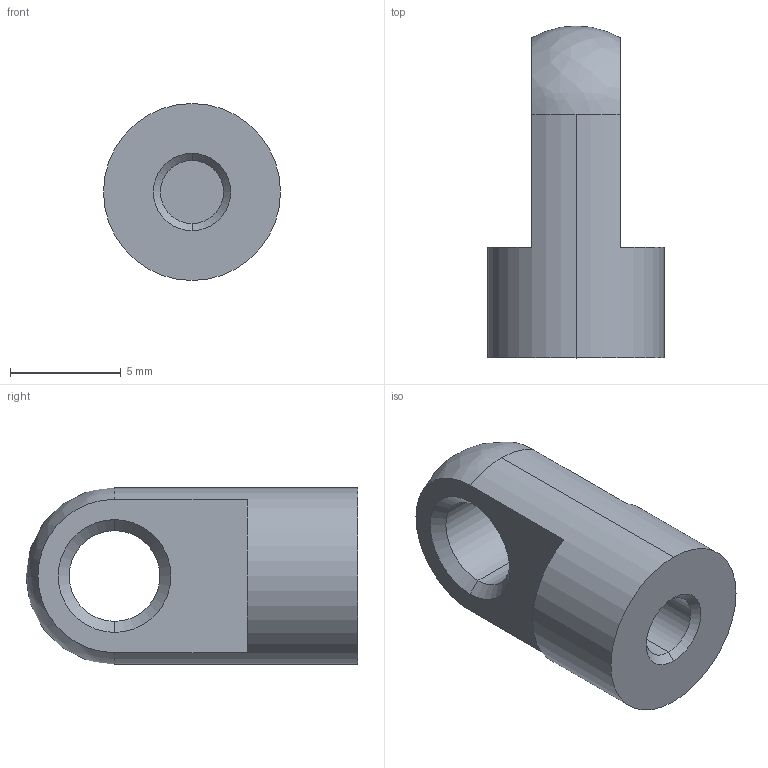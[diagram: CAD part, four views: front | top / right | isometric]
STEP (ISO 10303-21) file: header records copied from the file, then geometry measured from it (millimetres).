
FILE_DESCRIPTION (( 'STEP AP214' ), '1' );
FILE_NAME ('18.SM02.STEP', '2017-10-21T09:22:43', ( '' ), ( '' ), 'SwSTEP 2.0', 'SolidWorks 2016', '' );
FILE_SCHEMA (( 'AUTOMOTIVE_DESIGN' ));
Length unit declared in the file: millimetre
Products named in the file (1): 18.SM02
Bounding box: 8 x 15 x 8 mm (x, y, z)
Volume: 432.1 mm3; surface area: 487.3 mm2
Topology: 1 solids, 1 shells, 20 faces, 45 edges, 28 vertices
Faces by surface type: cylinder 6, cone 6, plane 6, bspline 2
Entity records: 628 total; most frequent: CARTESIAN_POINT 124, DIRECTION 110, ORIENTED_EDGE 90, AXIS2_PLACEMENT_3D 46, EDGE_CURVE 45, VERTEX_POINT 28, CIRCLE 27, EDGE_LOOP 23
